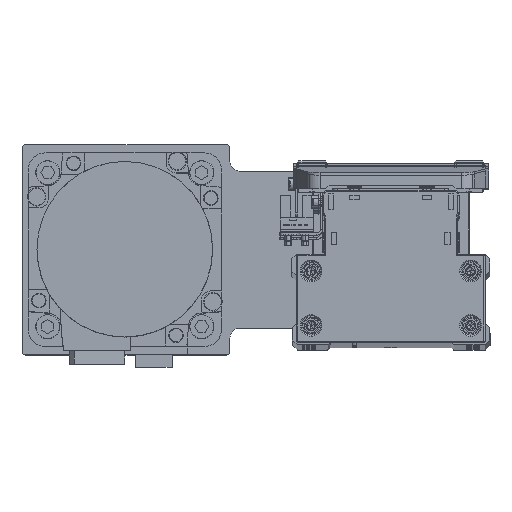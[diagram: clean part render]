
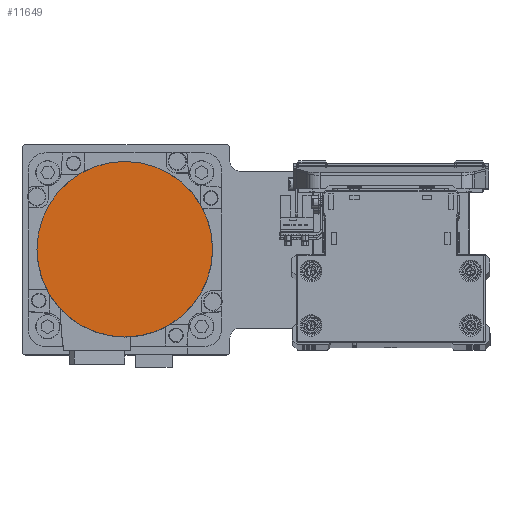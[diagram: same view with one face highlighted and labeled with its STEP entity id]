
A CAD part, top view. The second image highlights one B-rep face of the part: STEP entity #11649.
In plain terms, the highlighted planar face has unit normal (0, 0, 1) as drawn and (0, 0, -1) by its records, which use the part's own axes.
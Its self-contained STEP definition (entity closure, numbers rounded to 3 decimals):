
#7028 = CARTESIAN_POINT ( 'NONE',  ( 0., 0., -122.2 ) ) ;
#8089 = CIRCLE ( 'NONE', #30948, 36.3 ) ;
#8302 = CARTESIAN_POINT ( 'NONE',  ( 0., 36.3, -122.2 ) ) ;
#8800 = CARTESIAN_POINT ( 'NONE',  ( 0., 0., -122.2 ) ) ;
#11387 = CARTESIAN_POINT ( 'NONE',  ( 0., 0., -122.2 ) ) ;
#11649 = ADVANCED_FACE ( 'NONE', ( #26933 ), #39416, .F. ) ;
#18768 = AXIS2_PLACEMENT_3D ( 'NONE', #11387, #23868, #36340 ) ;
#19486 = DIRECTION ( 'NONE',  ( 0., 0., 1. ) ) ;
#21154 = CARTESIAN_POINT ( 'NONE',  ( 0., -36.3, -122.2 ) ) ;
#21227 = AXIS2_PLACEMENT_3D ( 'NONE', #8800, #21259, #33747 ) ;
#21259 = DIRECTION ( 'NONE',  ( 0., 0., 1. ) ) ;
#23868 = DIRECTION ( 'NONE',  ( 0., 0., 1. ) ) ;
#24773 = EDGE_CURVE ( 'NONE', #27951, #30381, #8089, .T. ) ;
#26114 = ORIENTED_EDGE ( 'NONE', *, *, #29467, .F. ) ;
#26933 = FACE_OUTER_BOUND ( 'NONE', #29522, .T. ) ;
#27951 = VERTEX_POINT ( 'NONE', #21154 ) ;
#29467 = EDGE_CURVE ( 'NONE', #30381, #27951, #38894, .T. ) ;
#29522 = EDGE_LOOP ( 'NONE', ( #26114, #37077 ) ) ;
#30381 = VERTEX_POINT ( 'NONE', #8302 ) ;
#30948 = AXIS2_PLACEMENT_3D ( 'NONE', #7028, #19486, #31976 ) ;
#31976 = DIRECTION ( 'NONE',  ( 0., -1., 0. ) ) ;
#33747 = DIRECTION ( 'NONE',  ( 0., 1., 0. ) ) ;
#36340 = DIRECTION ( 'NONE',  ( 1., 0., 0. ) ) ;
#37077 = ORIENTED_EDGE ( 'NONE', *, *, #24773, .F. ) ;
#38894 = CIRCLE ( 'NONE', #21227, 36.3 ) ;
#39416 = PLANE ( 'NONE',  #18768 ) ;
